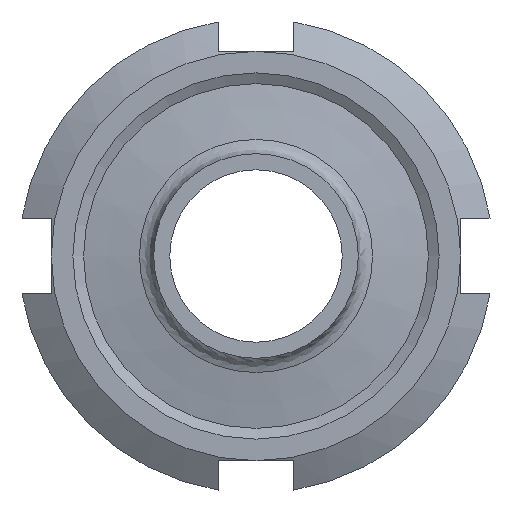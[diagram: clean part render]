
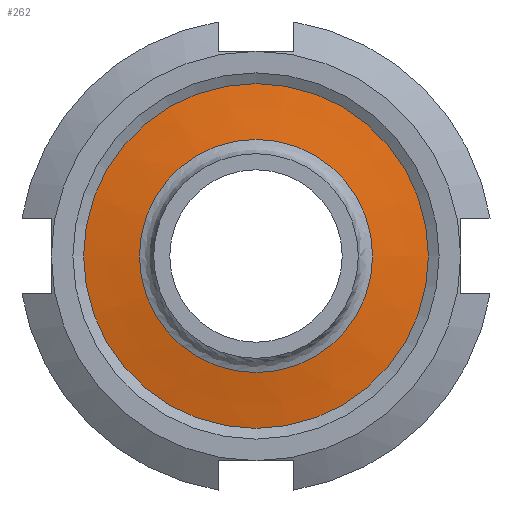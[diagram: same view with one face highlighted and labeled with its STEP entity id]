
A CAD part, front view. The second image highlights one B-rep face of the part: STEP entity #262.
In plain terms, the highlighted conical face has half-angle 80 degrees and reference radius 13.25 mm.
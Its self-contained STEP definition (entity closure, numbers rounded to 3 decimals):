
#160=CARTESIAN_POINT('',(17.0,-2.935,0.0));
#161=VERTEX_POINT('',#160);
#162=CARTESIAN_POINT('',(0.0,-2.935,0.0));
#163=DIRECTION('',(0.0,-1.0,0.0));
#164=DIRECTION('',(1.0,0.0,0.0));
#165=AXIS2_PLACEMENT_3D('',#162,#163,#164);
#166=CIRCLE('',#165,17.0);
#167=EDGE_CURVE('',#161,#161,#166,.T.);
#228=CARTESIAN_POINT('',(10.822,-4.024,0.));
#229=VERTEX_POINT('',#228);
#230=CARTESIAN_POINT('',(0.0,-4.024,0.));
#231=DIRECTION('',(0.0,-1.0,0.0));
#232=DIRECTION('',(-1.0,0.0,0.0));
#233=AXIS2_PLACEMENT_3D('',#230,#231,#232);
#234=CIRCLE('',#233,10.822);
#235=EDGE_CURVE('',#229,#229,#234,.T.);
#251=CARTESIAN_POINT('',(0.0,-3.596,0.0));
#252=DIRECTION('',(0.0,1.0,0.0));
#253=DIRECTION('',(1.0,0.0,0.0));
#254=AXIS2_PLACEMENT_3D('',#251,#252,#253);
#255=CONICAL_SURFACE('',#254,13.25,80.);
#256=ORIENTED_EDGE('',*,*,#167,.T.);
#257=EDGE_LOOP('',(#256));
#258=FACE_OUTER_BOUND('',#257,.T.);
#259=ORIENTED_EDGE('',*,*,#235,.F.);
#260=EDGE_LOOP('',(#259));
#261=FACE_BOUND('',#260,.T.);
#262=ADVANCED_FACE('',(#258,#261),#255,.T.);
